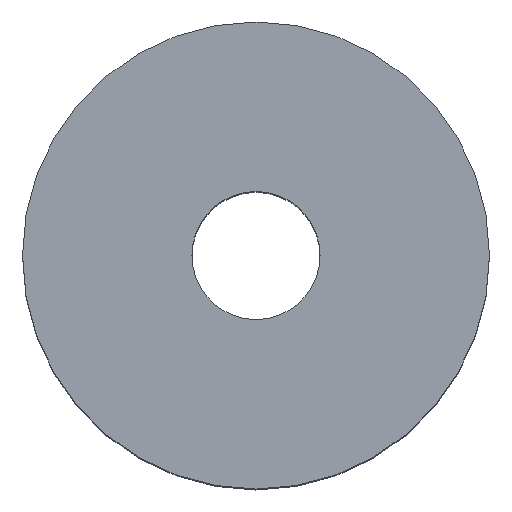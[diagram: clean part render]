
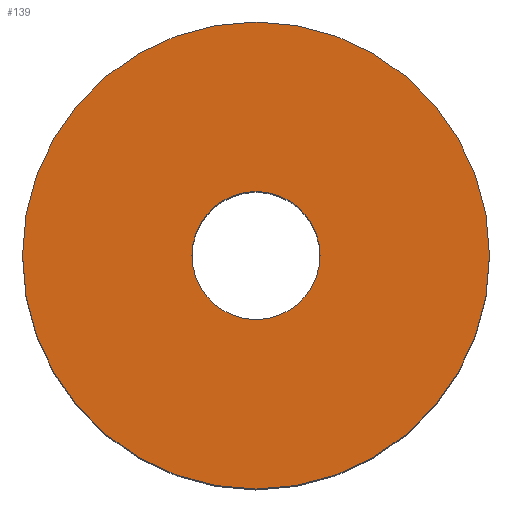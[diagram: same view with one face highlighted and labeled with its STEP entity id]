
A CAD part, top view. The second image highlights one B-rep face of the part: STEP entity #139.
In plain terms, the highlighted planar face has unit normal (0, 0, 1).
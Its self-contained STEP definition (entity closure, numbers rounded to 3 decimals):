
#32=ORIENTED_EDGE('',*,*,#50,.F.);
#33=ORIENTED_EDGE('',*,*,#51,.F.);
#50=EDGE_CURVE('',#62,#62,#74,.T.);
#51=EDGE_CURVE('',#63,#63,#75,.T.);
#62=VERTEX_POINT('',#266);
#63=VERTEX_POINT('',#268);
#74=CIRCLE('',#182,1.9);
#75=CIRCLE('',#183,6.93);
#92=EDGE_LOOP('',(#32));
#93=EDGE_LOOP('',(#33));
#116=FACE_BOUND('',#92,.T.);
#117=FACE_BOUND('',#93,.T.);
#130=PLANE('',#181);
#139=ADVANCED_FACE('',(#116,#117),#130,.T.);
#181=AXIS2_PLACEMENT_3D('',#264,#222,#223);
#182=AXIS2_PLACEMENT_3D('',#265,#224,#225);
#183=AXIS2_PLACEMENT_3D('',#267,#226,#227);
#222=DIRECTION('',(0.,0.,1.));
#223=DIRECTION('',(1.,0.,0.));
#224=DIRECTION('',(0.,0.,1.));
#225=DIRECTION('',(1.,0.,0.));
#226=DIRECTION('',(0.,0.,-1.));
#227=DIRECTION('',(1.,0.,0.));
#264=CARTESIAN_POINT('',(0.,0.,16.));
#265=CARTESIAN_POINT('',(0.,0.,16.));
#266=CARTESIAN_POINT('',(1.9,0.,16.));
#267=CARTESIAN_POINT('',(0.,0.,16.));
#268=CARTESIAN_POINT('',(6.93,0.,16.));
